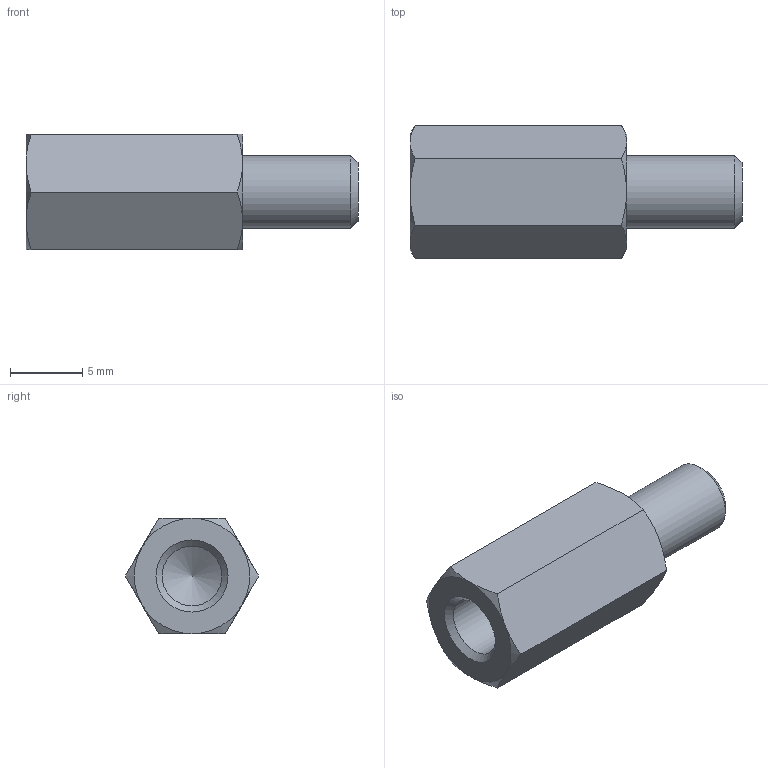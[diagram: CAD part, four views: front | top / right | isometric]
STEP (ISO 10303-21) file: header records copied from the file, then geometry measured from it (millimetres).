
FILE_DESCRIPTION( ( 'STEP AP203' ), '1' );
FILE_NAME( 'C:/Temp/Ganter_Step_05_03_2020/data/3_2/gn6220/gn6220_ni/Stainless Steel-Spacer GN 6220-NI-M5-15-B.stp', '2020-03-13T05:43:12', ( 'License CC BY-ND 4.0' ), ( 'CADENAS' ), ' ', 'PARTsolutions', ' ' );
FILE_SCHEMA( ( 'CONFIG_CONTROL_DESIGN' ) );
Length unit declared in the file: millimetre
Products named in the file (1): _Stainless Steel-Spacer GN 6220-NI-M5-15-B
Bounding box: 23 x 9.24 x 8 mm (x, y, z)
Volume: 788.1 mm3; surface area: 825.8 mm2
Topology: 1 solids, 1 shells, 26 faces, 55 edges, 32 vertices
Faces by surface type: cone 15, plane 9, cylinder 2
Full cylindrical faces by diameter (mm): 4.134 x1, 5 x1
Entity records: 746 total; most frequent: CARTESIAN_POINT 210, DIRECTION 96, ORIENTED_EDGE 96, EDGE_CURVE 48, AXIS2_PLACEMENT_3D 45, EDGE_LOOP 32, VERTEX_POINT 31, FACE_OUTER_BOUND 28
